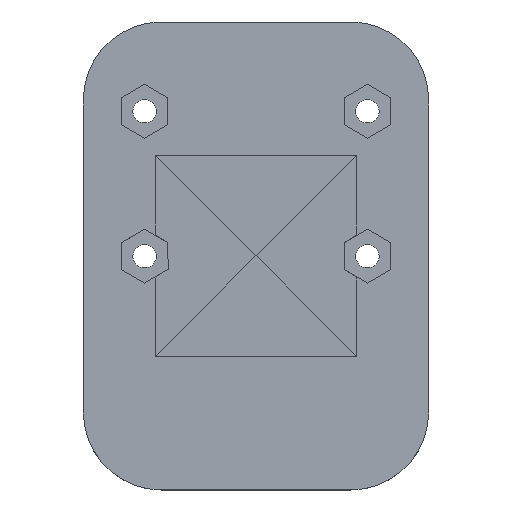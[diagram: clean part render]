
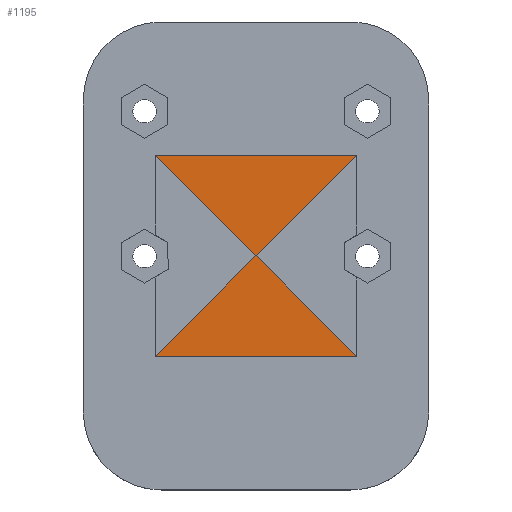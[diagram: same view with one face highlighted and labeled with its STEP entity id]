
A CAD part, top view. The second image highlights one B-rep face of the part: STEP entity #1195.
In plain terms, the highlighted planar face has unit normal (0, 0, 1).
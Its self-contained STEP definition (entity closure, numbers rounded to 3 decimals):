
#109=FACE_OUTER_BOUND('',#183,.T.);
#183=EDGE_LOOP('',(#1063,#1064,#1065,#1066,#1067,#1068));
#201=LINE('',#1633,#349);
#202=LINE('',#1635,#350);
#321=LINE('',#1907,#469);
#322=LINE('',#1908,#470);
#326=LINE('',#1915,#474);
#328=LINE('',#1918,#476);
#349=VECTOR('',#1316,12.811);
#350=VECTOR('',#1317,12.811);
#469=VECTOR('',#1564,12.811);
#470=VECTOR('',#1565,12.811);
#474=VECTOR('',#1573,10.);
#476=VECTOR('',#1577,10.);
#490=VERTEX_POINT('',#1619);
#495=VERTEX_POINT('',#1630);
#496=VERTEX_POINT('',#1632);
#497=VERTEX_POINT('',#1634);
#585=VERTEX_POINT('',#1904);
#586=VERTEX_POINT('',#1906);
#603=EDGE_CURVE('',#496,#495,#201,.T.);
#604=EDGE_CURVE('',#496,#497,#202,.T.);
#739=EDGE_CURVE('',#586,#585,#321,.T.);
#740=EDGE_CURVE('',#586,#490,#322,.T.);
#744=EDGE_CURVE('',#585,#497,#326,.T.);
#746=EDGE_CURVE('',#495,#490,#328,.T.);
#1063=ORIENTED_EDGE('',*,*,#744,.T.);
#1064=ORIENTED_EDGE('',*,*,#604,.F.);
#1065=ORIENTED_EDGE('',*,*,#603,.T.);
#1066=ORIENTED_EDGE('',*,*,#746,.T.);
#1067=ORIENTED_EDGE('',*,*,#740,.F.);
#1068=ORIENTED_EDGE('',*,*,#739,.T.);
#1132=PLANE('',#1288);
#1195=ADVANCED_FACE('',(#109),#1132,.F.);
#1288=AXIS2_PLACEMENT_3D('',#1929,#1591,#1592);
#1316=DIRECTION('',(0.707,0.707,0.));
#1317=DIRECTION('',(0.707,-0.707,0.));
#1564=DIRECTION('',(-0.707,-0.707,0.));
#1565=DIRECTION('',(-0.707,0.707,0.));
#1573=DIRECTION('',(1.,0.,0.));
#1577=DIRECTION('',(-1.,0.,0.));
#1591=DIRECTION('center_axis',(0.,0.,
-1.));
#1592=DIRECTION('ref_axis',(-1.,0.,0.));
#1619=CARTESIAN_POINT('',(-9.059,9.009,7.6));
#1630=CARTESIAN_POINT('',(9.059,9.009,7.6));
#1632=CARTESIAN_POINT('',(0.05,0.,7.6));
#1633=CARTESIAN_POINT('',(0.05,0.,7.6));
#1634=CARTESIAN_POINT('',(9.059,-9.009,7.6));
#1635=CARTESIAN_POINT('',(0.05,0.,7.6));
#1904=CARTESIAN_POINT('',(-9.059,-9.009,7.6));
#1906=CARTESIAN_POINT('',(-0.05,0.,7.6));
#1907=CARTESIAN_POINT('',(-0.05,0.,7.6));
#1908=CARTESIAN_POINT('',(-0.05,0.,7.6));
#1915=CARTESIAN_POINT('',(-4.529,-9.009,7.6));
#1918=CARTESIAN_POINT('',(4.53,9.009,7.6));
#1929=CARTESIAN_POINT('Origin',(0.,9.059,7.6));
